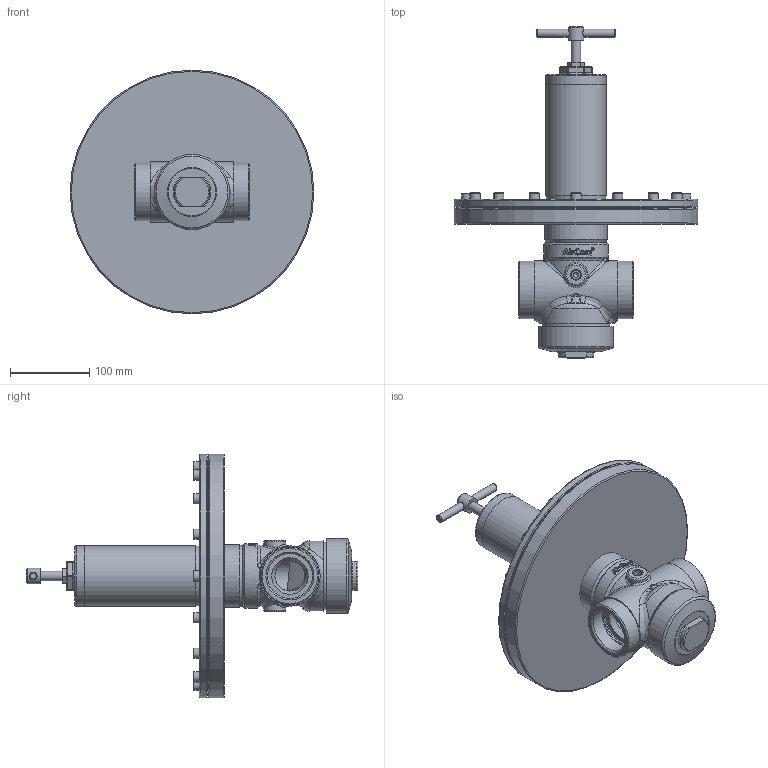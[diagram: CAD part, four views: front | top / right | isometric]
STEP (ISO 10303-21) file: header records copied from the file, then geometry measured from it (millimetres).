
FILE_DESCRIPTION((''),'2;1');
FILE_NAME('F:\AirCom-Produktdokumentation\Druckregler\R74\CAD\CAD AirCom\3D\B-R74-16.stp','2008-10-16T13:14:23',('Frank Schroers'),(''),'Autodesk Inventor 2008','Autodesk Inventor 2008','');
FILE_SCHEMA(('AUTOMOTIVE_DESIGN { 1 0 10303 214 1 1 1 1 }'));
Length unit declared in the file: millimetre
Products named in the file (26): B-R74; NONE; NONEA; NONEB; NONEC; NONED; NONEE; NONEF; NONEG; NONEH; NONEI; NONEJ; NONEK; NONEL; NONEM; NONEN; NONEO; NONEP; NONEQ; NONER; NONES; NONET; NONEU; NONEV; NONEW; NONEX
Assembly tree (25 placements, depth 2):
  B-R74
    NONE
    NONEA
    NONEB
    NONEC
    NONED
    NONEE
    NONEF
    NONEG
    NONEH
    NONEI
    NONEJ
    NONEK
    NONEL
    NONEM
    NONEN
    NONEO
    NONEP
    NONEQ
    NONER
    NONES
    NONET
    NONEU
    NONEV
    NONEW
    NONEX
Bounding box: 308 x 419.6 x 308 mm (x, y, z)
Volume: 2248476.8 mm3; surface area: 589867.4 mm2
Topology: 25 solids, 25 shells, 707 faces, 1578 edges, 986 vertices
Faces by surface type: plane 264, cylinder 165, cone 124, torus 80, bspline 68, sphere 6
Full cylindrical faces by diameter (mm): 3 x3, 6.2 x2, 6.65 x16, 8 x16, 8.6 x16, 10 x2, 10.1 x1, 11.45 x2, 12 x2, 13 x16, 20 x1, 28 x2, 35 x1, 38 x3, 41 x1, 45.4 x1, 48 x1, 53 x1, 56.66 x2, 60 x1, 60.1 x2, 68.9 x1, 69.7 x2, 70 x2, 70.2 x1, 70.4 x3, 71 x1, 72 x9, 72.5 x1, 73 x2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
Entity records: 32169 total; most frequent: CARTESIAN_POINT 17578, DIRECTION 2863, ORIENTED_EDGE 2440, AXIS2_PLACEMENT_3D 1221, EDGE_CURVE 1220, EDGE_LOOP 1122, VERTEX_POINT 922, FACE_OUTER_BOUND 707
